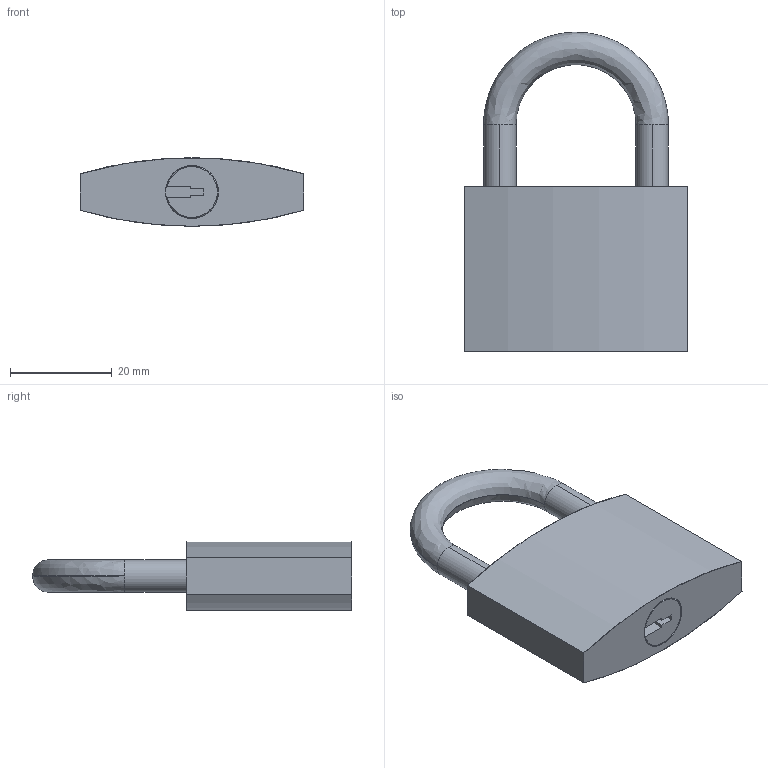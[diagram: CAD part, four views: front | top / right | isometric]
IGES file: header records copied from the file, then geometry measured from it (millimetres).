
Start section: SolidWorks IGES file using analytic representation for surfaces
Bounding box: 44 x 62.89 x 13.5 mm (x, y, z)
Surface area: 5812.2 mm2 (no closed solid volume)
Topology: 0 solids, 0 shells, 27 faces, 286 edges, 286 vertices
Faces by surface type: bspline 15, revolution 12
